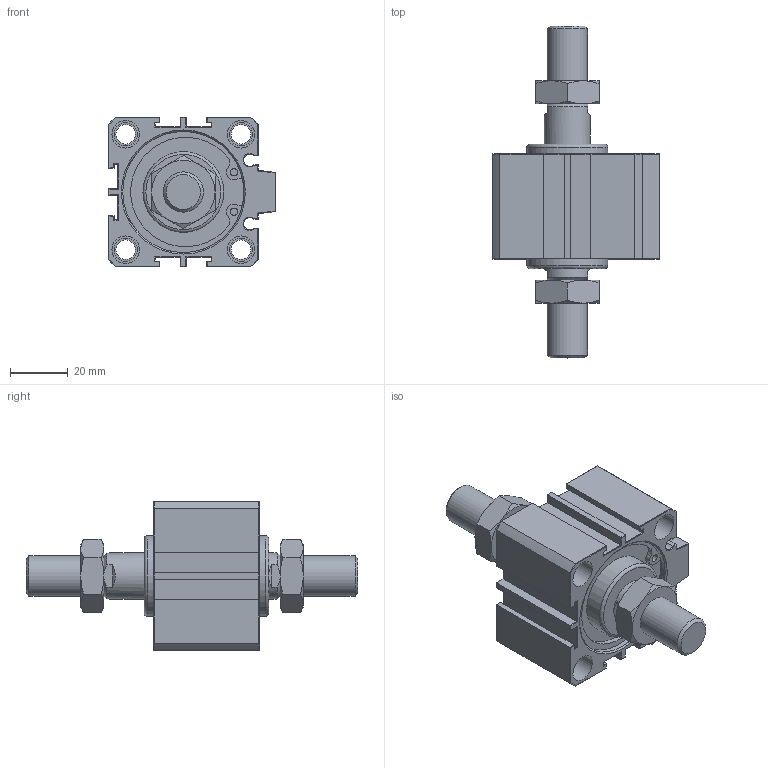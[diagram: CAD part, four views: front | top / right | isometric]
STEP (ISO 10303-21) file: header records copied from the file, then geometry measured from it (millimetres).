
FILE_DESCRIPTION(/* description */ (''),/* implementation_level */ '2;1');
FILE_NAME(/* name */ 'AJC-SW40X10W',/* time_stamp */ '2019-07-19T15:23:27+08:00',/* author */ ('JEFF HUANG'),/* organization */ ('TAIWAN AMAC CLAMP INDUSTRIAL CO., LTD.'),/* preprocessor_version */ 'ST-DEVELOPER v16.7',/* originating_system */ 'DEX',/* authorisation */ $);
FILE_SCHEMA (('AUTOMOTIVE_DESIGN {1 0 10303 214 3 1 1}'));
Length unit declared in the file: millimetre
Products named in the file (1): AJC-SW40X10W
Bounding box: 58 x 115.1 x 52 mm (x, y, z)
Volume: 99524 mm3; surface area: 26781.4 mm2
Topology: 1 solids, 1 shells, 313 faces, 685 edges, 406 vertices
Faces by surface type: plane 212, cylinder 53, cone 46, torus 2
Full cylindrical faces by diameter (mm): 2.5 x4, 6.8 x4, 8 x8, 9.147 x2, 9.5 x8, 14 x2, 16 x1, 28 x2, 42 x2
Entity records: 10419 total; most frequent: CARTESIAN_POINT 1606, DIRECTION 1350, ORIENTED_EDGE 1278, EDGE_CURVE 639, AXIS2_PLACEMENT_3D 477, VERTEX_POINT 401, LINE 396, VECTOR 396
